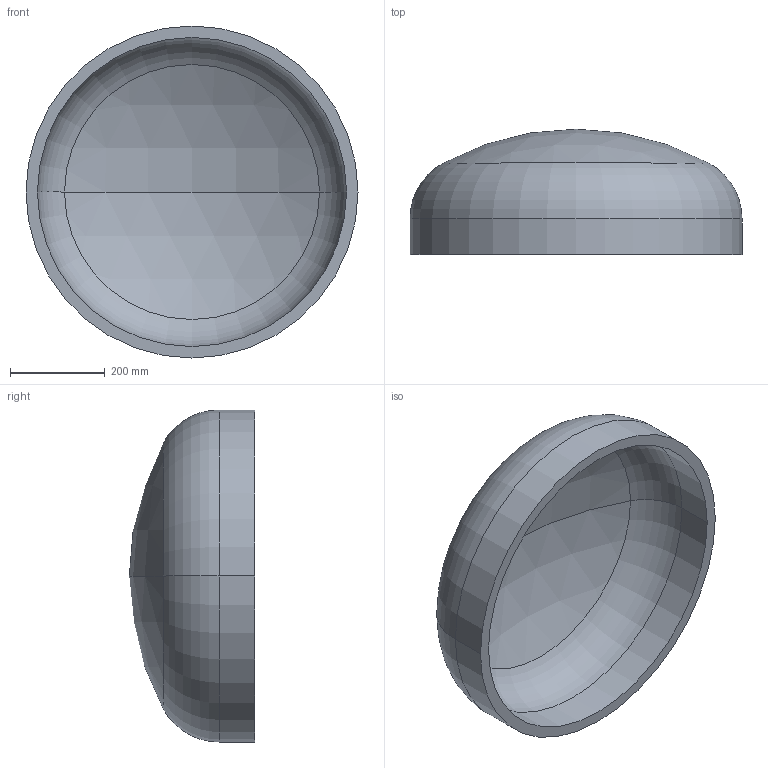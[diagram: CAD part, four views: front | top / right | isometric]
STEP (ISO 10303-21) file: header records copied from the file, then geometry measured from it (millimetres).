
FILE_DESCRIPTION (( 'STEP AP203' ), '1' );
FILE_NAME ('DIN 28013 Korbbogenform_-_Boden DIN 28013 - 700 x 75 - I - s=24.step', '2016-07-01T08:05:43', ( '' ), ( '' ), 'SwSTEP 2.0', 'SolidWorks 2013', '' );
FILE_SCHEMA (( 'CONFIG_CONTROL_DESIGN' ));
Length unit declared in the file: millimetre
Products named in the file (1): DIN 28013 Korbbogenform_-_Boden DIN 28013 - 700 x 75 - I - s=24
Bounding box: 700 x 264.23 x 700 mm (x, y, z)
Volume: 16106777.9 mm3; surface area: 1394406.7 mm2
Topology: 1 solids, 1 shells, 13 faces, 24 edges, 14 vertices
Faces by surface type: torus 4, cylinder 4, sphere 4, plane 1
Entity records: 407 total; most frequent: DIRECTION 72, CARTESIAN_POINT 52, ORIENTED_EDGE 48, AXIS2_PLACEMENT_3D 34, EDGE_CURVE 24, CIRCLE 20, EDGE_LOOP 14, VERTEX_POINT 14
